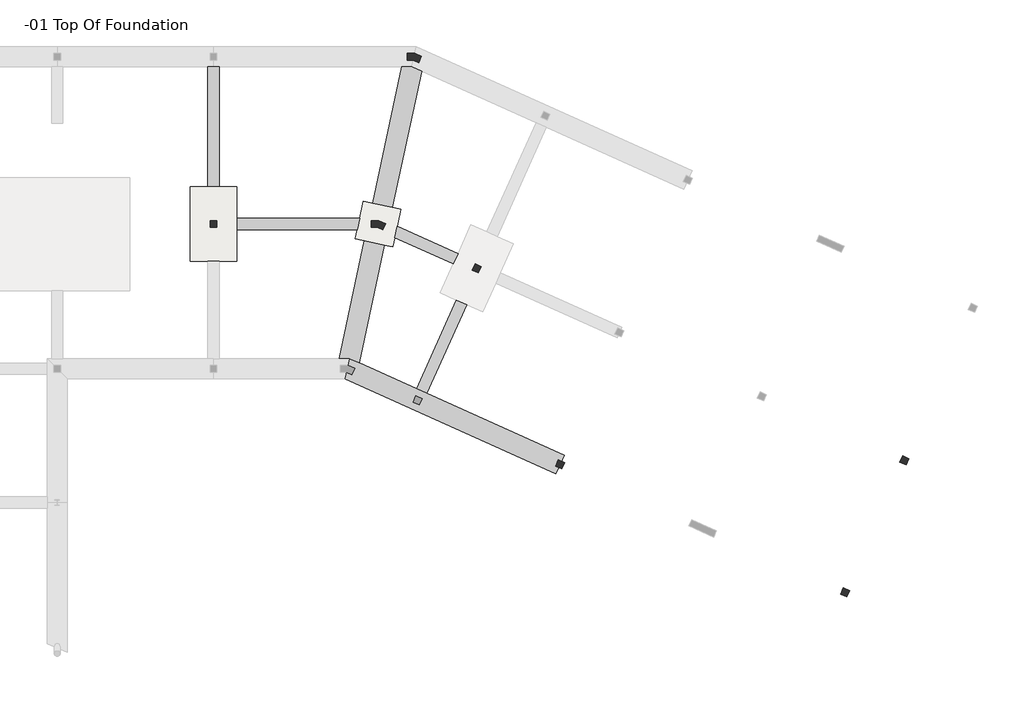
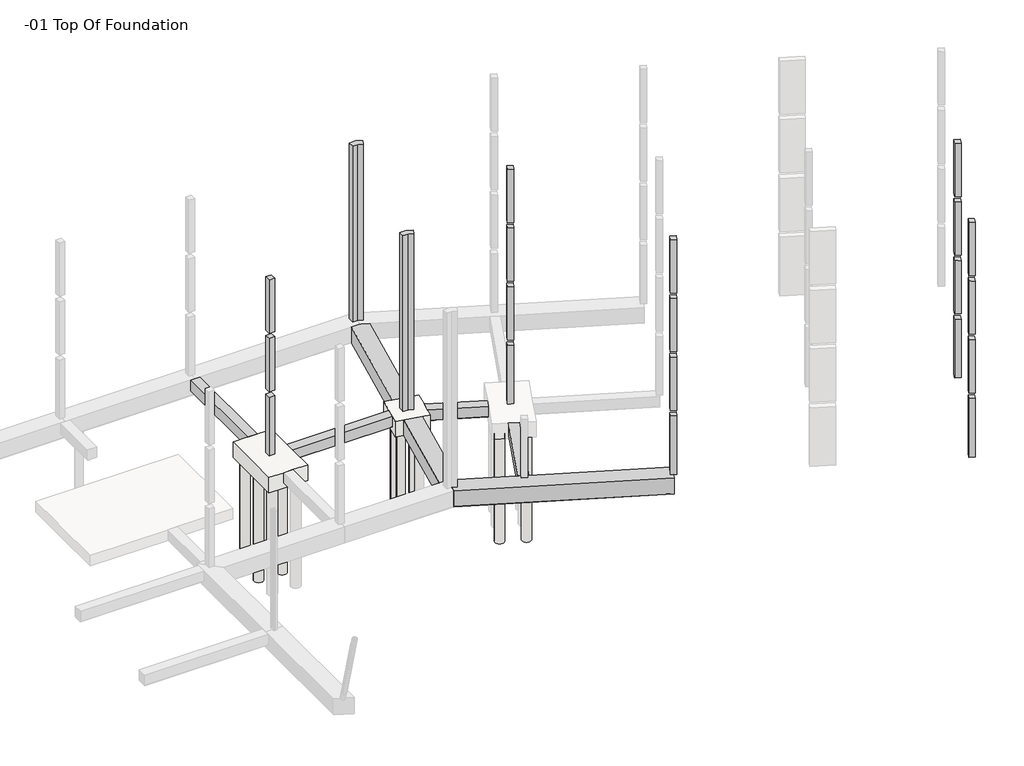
# One storey, part 3 of 4: 11 slabs, 7 columns, 6 beams.
"""IFC4 building model written with IfcOpenShell, lengths in millimetres."""

from ifc_helpers import new_model, si_unit, point, frame, frame_2d, origin, place, context, project, spatial, polyline, circle_curve, ellipse_curve, trimmed, segment, composite_curve, outline, extrude, faceted_brep, element, save
from ifc_brep_helpers import plane_surface, cylinder_surface, revolved_surface, advanced_brep

model = new_model("IFC4")

# Units and contexts
model_context = context("Model", 3, world=origin())
ifc_project = project(units=[si_unit("LENGTHUNIT", "METRE", prefix="MILLI")], contexts=[model_context])

# Site, building, storey
site = spatial("IfcSite", under=ifc_project)
building = spatial("IfcBuilding", under=site)
storey = spatial("IfcBuildingStorey", under=building, Name="-01 Top Of Foundation", Elevation=-304.8)

# Beams
placement = place(None, origin())
element("IfcBeam", 1, ObjectType="Ring Beam : 12 x 24", at=placement, inside=storey, context=model_context, shape_type="SweptSolid", body=[
    extrude(outline(polyline([(6743.7000001, 889.0), (7251.7, 889.0), (7251.7, 304.8), (7226.3, 279.4), (6769.1, 279.4), (6743.7000001, 304.8), (6743.7000001, 889.0)])), frame((37733.3780425, -17865.6165854, -1193.8), z_axis=(0.4097560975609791, 0.9121951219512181, 0.0), x_axis=(-0.9121951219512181, 0.4097560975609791, 0.0)), (0.0, 0.0, 1.0), 4356.1),
])
element("IfcBeam", 2, ObjectType="Ring Beam : 12 x 24", at=placement, inside=storey, context=model_context, shape_type="Brep", body=[
    faceted_brep([(30254.0535171, -7606.2877938, -304.8), (30145.1963742, -8114.2877938, -304.8), (32770.921512, -9293.7579091, -304.8), (32979.0776096, -8830.3627872, -304.8), (30145.1963742, -8114.2877938, -889.0), (32770.921512, -9293.7579091, -889.0), (30150.6392314, -8088.8877938, -914.4), (32781.3293169, -9270.588153, -914.4), (30248.61066, -7631.6877938, -914.4), (32968.6698047, -8853.5325433, -914.4), (30254.0535171, -7606.2877938, -889.0), (32979.0776096, -8830.3627872, -889.0)], [[[0, 1, 2, 3]], [[1, 4, 5, 2]], [[4, 6, 7, 5]], [[6, 8, 9, 7]], [[8, 10, 11, 9]], [[10, 0, 3, 11]], [[1, 0, 10, 8, 6, 4]], [[3, 2, 5, 7, 9, 11]]]),
])
element("IfcBeam", 3, ObjectType="Ring Beam : 12 x 24", at=placement, inside=storey, context=model_context, shape_type="Brep", body=[
    faceted_brep([(23050.5, -7251.7, -304.8), (23050.5, -7759.7, -304.8), (28454.7694343, -7759.7, -304.8), (28563.6265772, -7251.7, -304.8), (23050.5, -7759.7, -889.0), (28454.7694343, -7759.7, -889.0), (23050.5, -7734.3, -914.4), (28460.2122914, -7734.3, -914.4), (23050.5, -7277.1, -914.4), (28558.18372, -7277.1, -914.4), (23050.5, -7251.7, -889.0), (28563.6265772, -7251.7, -889.0)], [[[0, 1, 2, 3]], [[1, 4, 5, 2]], [[4, 6, 7, 5]], [[6, 8, 9, 7]], [[8, 10, 11, 9]], [[10, 0, 3, 11]], [[1, 0, 10, 8, 6, 4]], [[3, 2, 5, 7, 9, 11]]]),
])
element("IfcBeam", 4, ObjectType="Ring Beam : 12 x 24", at=placement, inside=storey, context=model_context, shape_type="Brep", body=[
    faceted_brep([(22263.1, -457.2, -304.8), (22009.1, -457.2, -304.8), (21755.1, -457.2, -304.8), (21755.1, -5829.3, -304.8), (22263.1, -5829.3, -304.8), (22263.1, -457.2, -889.0), (22263.1, -5829.3, -889.0), (22237.7, -457.2, -914.4), (22237.7, -5829.3, -914.4), (21780.5, -457.2, -914.4), (21780.5, -5829.3, -914.4), (21755.1, -457.2, -889.0), (21755.1, -5829.3, -889.0)], [[[0, 1, 2, 3, 4]], [[5, 0, 4, 6]], [[7, 5, 6, 8]], [[9, 7, 8, 10]], [[11, 9, 10, 12]], [[2, 11, 12, 3]], [[0, 5, 7, 9, 11, 2, 1]], [[4, 3, 12, 10, 8, 6]]]),
])
element("IfcBeam", 5, ObjectType="Ring Beam : 16 x 32", at=placement, inside=storey, context=model_context, shape_type="Brep", body=[
    faceted_brep([(28099.7244536, -13538.2, -304.8), (28034.4101679, -13843.0, -304.8), (27969.0988162, -14147.786308, -304.8), (27903.7815965, -14452.6, -304.8), (37370.2819449, -18704.9317073, -304.8), (37474.3599937, -18473.2341463, -304.8), (37744.9629205, -17870.8204878, -304.8), (31581.8077985, -15102.3443902, -304.8), (31118.4126766, -14894.1882927, -304.8), (28542.523194, -13737.104247, -304.8), (27903.7815965, -14452.6, -1193.8), (37370.2819449, -18704.9317073, -1193.8), (27909.2244536, -14427.2, -1219.2), (37380.6897498, -18681.7619512, -1219.2), (28094.2815965, -13563.6, -1219.2), (28513.3845925, -13751.8601693, -1219.2), (37734.5551156, -17893.9902439, -1219.2), (28099.7244536, -13538.2, -1193.8), (28542.523194, -13737.104247, -1193.8), (37744.9629205, -17870.8204878, -1193.8)], [[[0, 1, 2, 3, 4, 5, 6, 7, 8, 9]], [[3, 10, 11, 4]], [[10, 12, 13, 11]], [[12, 14, 15, 16, 13]], [[14, 17, 18, 19, 16, 15]], [[17, 0, 9, 8, 7, 6, 19, 18]], [[0, 17, 14, 12, 10, 3, 2, 1]], [[4, 11, 13, 16, 19, 6, 5]]]),
])
element("IfcBeam", 6, ObjectType="Ring Beam : 16 x 32", at=placement, inside=storey, context=model_context, shape_type="AdvancedBrep", body=[
    advanced_brep(
    [(31345.5946226, -656.104247, -304.8), (30902.7958822, -457.2, -304.8), (30453.0587055, -457.2, -304.8), (29143.3597284, -6569.12856, -304.8), (30037.4622558, -6760.7219587, -304.8), (31345.5946226, -656.104247, -1193.8), (30037.4622558, -6760.7219587, -1193.8), (31327.3417353, -620.0601693, -1219.2), (29994.728735, -6960.1450558, -1193.8), (29970.017132, -6954.2416514, -1219.2), (28513.3845925, -13751.8601693, -1219.2), (28094.2815965, -13563.6, -1219.2), (27670.521038, -13563.6, -1219.2), (28849.8308143, -8060.1543772, -1219.2), (29048.2445125, -7899.5308752, -1219.2), (28933.0689643, -7671.7096775, -1219.2), (29041.4242131, -7166.0518498, -1219.2), (29239.8379112, -7005.4283477, -1219.2), (29124.662363, -6777.60715, -1219.2), (30484.4781809, -431.8, -1219.2), (30908.2387393, -431.8, -1219.2), (29736.5615376, -7111.8691248, -1219.2), (29884.9297736, -7351.3159905, -1219.2), (29778.4237333, -7848.3441788, -1219.2), (29544.9681388, -8005.9716523, -1219.2), (29693.3363749, -8245.418518, -1219.2), (30453.0587055, -457.2, -1193.8), (29100.6262076, -6768.551657, -1193.8), (29143.3597284, -6569.12856, -1193.8), (28542.523194, -13737.104247, -1193.8), (28099.7244536, -13538.2, -1193.8), (28542.523194, -13737.104247, -304.8), (28099.7244536, -13538.2, -304.8), (30902.7958822, -457.2, -1193.8), (27649.987277, -13538.2, -1193.8), (27649.987277, -13538.2, -304.8), (28781.4610863, -8257.9888896, -1193.8), (29675.5636138, -8449.5822883, -1193.8), (29718.2971346, -8250.1591913, -1193.8), (29544.9681388, -8005.9716523, -1193.8), (29803.1353363, -7854.2475832, -1193.8), (29909.8905333, -7356.0566638, -1193.8), (29736.5615376, -7111.8691248, -1193.8), (29239.8379112, -7005.4283477, -1193.8), (29015.7880059, -7164.4632651, -1193.8), (28909.0328089, -7662.6541845, -1193.8), (29048.2445125, -7899.5308752, -1193.8), (28824.1946071, -8058.5657925, -1193.8), (28781.4610863, -8257.9888896, -304.8), (29675.5636138, -8449.5822883, -304.8)],
    [
        (0, 1),
        (1, 2),
        (2, 3),
        (3, 4),
        (4, 0),
        (5, 0),
        (4, 6),
        (6, 5),
        (7, 5),
        (6, 8),
        (8, 9, ellipse_curve(frame((29935.2509881, -7154.4454357, -1211.245903), z_axis=(-0.691410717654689, 0.14815943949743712, 0.7071067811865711), x_axis=(0.691410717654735, -0.14815943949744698, 0.7071067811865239)), 287.3681959, 203.2)),
        (9, 7),
        (10, 11),
        (11, 12),
        (12, 13),
        (13, 14, circle_curve(frame((28849.5550619, -7856.9545643, -1219.2), z_axis=(0.0, 0.0, 1.0), x_axis=(-0.977802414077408, 0.20952908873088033, 0.0)), 203.2)),
        (14, 15, circle_curve(frame((28849.5550619, -7856.9545643, -1219.2), z_axis=(0.0, 0.0, 1.0), x_axis=(-0.977802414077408, 0.20952908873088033, 0.0)), 203.2)),
        (15, 16),
        (16, 17, circle_curve(frame((29041.1484607, -6962.8520369, -1219.2), z_axis=(0.0, 0.0, 1.0), x_axis=(-0.977802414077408, 0.20952908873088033, 0.0)), 203.2)),
        (17, 18, circle_curve(frame((29041.1484607, -6962.8520369, -1219.2), z_axis=(0.0, 0.0, 1.0), x_axis=(-0.977802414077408, 0.20952908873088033, 0.0)), 203.2)),
        (18, 19),
        (19, 20),
        (20, 7),
        (9, 21, circle_curve(frame((29935.2509881, -7154.4454357, -1219.2), z_axis=(0.0, 0.0, 1.0), x_axis=(-0.977802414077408, 0.20952908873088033, 0.0)), 203.2)),
        (21, 22, circle_curve(frame((29935.2509881, -7154.4454357, -1219.2), z_axis=(0.0, 0.0, 1.0), x_axis=(-0.977802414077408, 0.20952908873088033, 0.0)), 203.2)),
        (22, 23),
        (23, 24, circle_curve(frame((29743.6575894, -8048.5479631, -1219.2), z_axis=(0.0, 0.0, 1.0), x_axis=(-0.977802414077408, 0.20952908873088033, 0.0)), 203.2)),
        (24, 25, circle_curve(frame((29743.6575894, -8048.5479631, -1219.2), z_axis=(0.0, 0.0, 1.0), x_axis=(-0.977802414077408, 0.20952908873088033, 0.0)), 203.2)),
        (25, 10),
        (26, 19),
        (18, 27, ellipse_curve(frame((29041.1484607, -6962.8520369, -1176.354097), z_axis=(0.691410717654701, -0.14815943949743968, 0.7071067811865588), x_axis=(-0.691410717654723, 0.1481594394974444, 0.7071067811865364)), 287.3681959, 203.2)),
        (27, 28),
        (28, 26),
        (2, 26),
        (28, 3),
        (29, 30),
        (30, 11),
        (10, 29),
        (29, 31),
        (31, 32),
        (32, 30),
        (5, 33),
        (33, 1),
        (20, 33),
        (33, 26),
        (30, 34),
        (34, 12),
        (32, 35),
        (35, 34),
        (36, 37),
        (37, 38),
        (38, 39, circle_curve(frame((29743.6575894, -8048.5479631, -1193.8), z_axis=(0.0, 0.0, -1.0), x_axis=(-0.977802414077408, 0.20952908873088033, 0.0)), 203.2)),
        (39, 40, circle_curve(frame((29743.6575894, -8048.5479631, -1193.8), z_axis=(0.0, 0.0, -1.0), x_axis=(-0.977802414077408, 0.20952908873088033, 0.0)), 203.2)),
        (40, 41),
        (41, 42, circle_curve(frame((29935.2509881, -7154.4454357, -1193.8), z_axis=(0.0, 0.0, -1.0), x_axis=(-0.977802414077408, 0.20952908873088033, 0.0)), 203.2)),
        (42, 8, circle_curve(frame((29935.2509881, -7154.4454357, -1193.8), z_axis=(0.0, 0.0, -1.0), x_axis=(-0.977802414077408, 0.20952908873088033, 0.0)), 203.2)),
        (6, 28),
        (27, 43, circle_curve(frame((29041.1484607, -6962.8520369, -1193.8), z_axis=(0.0, 0.0, -1.0), x_axis=(-0.977802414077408, 0.20952908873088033, 0.0)), 203.2)),
        (43, 44, circle_curve(frame((29041.1484607, -6962.8520369, -1193.8), z_axis=(0.0, 0.0, -1.0), x_axis=(-0.977802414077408, 0.20952908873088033, 0.0)), 203.2)),
        (44, 45),
        (45, 46, circle_curve(frame((28849.5550619, -7856.9545643, -1193.8), z_axis=(0.0, 0.0, -1.0), x_axis=(-0.977802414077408, 0.20952908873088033, 0.0)), 203.2)),
        (46, 47, circle_curve(frame((28849.5550619, -7856.9545643, -1193.8), z_axis=(0.0, 0.0, -1.0), x_axis=(-0.977802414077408, 0.20952908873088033, 0.0)), 203.2)),
        (47, 36),
        (36, 48),
        (48, 49),
        (49, 37),
        (31, 49),
        (48, 35),
        (29, 37),
        (36, 34),
        (39, 24),
        (23, 40, ellipse_curve(frame((29743.6575894, -8048.5479631, -1211.245903), z_axis=(0.691410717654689, -0.14815943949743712, -0.7071067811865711), x_axis=(0.691410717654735, -0.14815943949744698, 0.7071067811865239)), 287.3681959, 203.2)),
        (38, 25, ellipse_curve(frame((29743.6575894, -8048.5479631, -1211.245903), z_axis=(0.691410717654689, -0.14815943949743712, -0.7071067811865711), x_axis=(0.691410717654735, -0.14815943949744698, 0.7071067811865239)), 287.3681959, 203.2)),
        (42, 21),
        (41, 22, ellipse_curve(frame((29935.2509881, -7154.4454357, -1211.245903), z_axis=(0.691410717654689, -0.14815943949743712, -0.7071067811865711), x_axis=(0.691410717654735, -0.14815943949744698, 0.7071067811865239)), 287.3681959, 203.2)),
        (17, 43),
        (16, 44, ellipse_curve(frame((29041.1484607, -6962.8520369, -1176.354097), z_axis=(-0.691410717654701, 0.14815943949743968, -0.7071067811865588), x_axis=(-0.691410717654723, 0.1481594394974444, 0.7071067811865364)), 287.3681959, 203.2)),
        (15, 45, ellipse_curve(frame((28849.5550619, -7856.9545643, -1176.354097), z_axis=(0.691410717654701, -0.14815943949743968, 0.7071067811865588), x_axis=(-0.691410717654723, 0.1481594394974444, 0.7071067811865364)), 287.3681959, 203.2)),
        (14, 46),
        (13, 47, ellipse_curve(frame((28849.5550619, -7856.9545643, -1176.354097), z_axis=(-0.691410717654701, 0.14815943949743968, -0.7071067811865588), x_axis=(-0.691410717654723, 0.1481594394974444, 0.7071067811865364)), 287.3681959, 203.2)),
    ],
    [
        plane_surface(frame((30448.8310757, -476.928939, -304.8), z_axis=(0.0, 0.0, 1.0), x_axis=(-0.20952908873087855, -0.9778024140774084, 0.0))),
        plane_surface(frame((31342.9336032, -668.5223377, -304.8), z_axis=(0.9778024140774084, -0.20952908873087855, 0.0), x_axis=(-0.20952908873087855, -0.9778024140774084, 0.0))),
        plane_surface(frame((31342.9336032, -668.5223377, -1193.8), z_axis=(0.691410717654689, -0.14815943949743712, -0.7071067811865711), x_axis=(-0.20952908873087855, -0.9778024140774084, 0.0))),
        plane_surface(frame((31318.0974219, -663.2002988, -1219.2), z_axis=(0.0, 0.0, -1.0), x_axis=(-0.20952908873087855, -0.9778024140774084, 0.0))),
        plane_surface(frame((30473.6672571, -482.2509778, -1219.2), z_axis=(-0.691410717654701, 0.14815943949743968, -0.7071067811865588), x_axis=(-0.20952908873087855, -0.9778024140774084, 0.0))),
        plane_surface(frame((30448.8310757, -476.928939, -1193.8), z_axis=(-0.9778024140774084, 0.20952908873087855, 0.0), x_axis=(-0.20952908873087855, -0.9778024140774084, 0.0))),
        plane_surface(frame((37722.9702376, -17888.7863415, -1219.2), z_axis=(-0.28974131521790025, -0.6450193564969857, 0.7071067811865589), x_axis=(-0.9121951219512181, 0.4097560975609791, 0.0))),
        plane_surface(frame((37733.3780425, -17865.6165854, -1193.8), z_axis=(-0.4097560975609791, -0.9121951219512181, 0.0), x_axis=(-0.9121951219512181, 0.4097560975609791, 0.0))),
        plane_surface(frame((43093.3975546, -5933.1921951, -304.8), z_axis=(0.4097560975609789, 0.9121951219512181, 0.0), x_axis=(-0.9121951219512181, 0.4097560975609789, 0.0))),
        plane_surface(frame((43093.3975546, -5933.1921951, -1193.8), z_axis=(0.2897413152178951, 0.6450193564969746, 0.7071067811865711), x_axis=(-0.9121951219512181, 0.4097560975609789, 0.0))),
        plane_surface(frame((30800.7268229, -457.2, -304.8), z_axis=(0.0, 1.0, 0.0), x_axis=(-1.0, 0.0, 0.0))),
        plane_surface(frame((30800.7268229, -457.2, -1193.8), z_axis=(0.0, 0.707106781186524, 0.7071067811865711), x_axis=(-1.0, 0.0, 0.0))),
        plane_surface(frame((27801.7125372, -13563.6, -1219.2), z_axis=(0.0, -0.7071067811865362, 0.7071067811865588), x_axis=(-1.0, 0.0, 0.0))),
        plane_surface(frame((27801.7125372, -13538.2, -1193.8), z_axis=(0.0, -1.0, 0.0), x_axis=(-1.0, 0.0, 0.0))),
        plane_surface(frame((30055.8838688, -8531.0794858, -1193.8), z_axis=(0.0, 0.0, 1.0000000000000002), x_axis=(-0.9778024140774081, 0.20952908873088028, 0.0))),
        plane_surface(frame((28367.0235392, -8169.1808438, -304.8), z_axis=(0.20952908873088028, 0.9778024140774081, 0.0), x_axis=(0.0, 0.0, -1.0))),
        plane_surface(frame((30417.7825109, -6842.2191562, -304.8), z_axis=(-0.20952908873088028, -0.9778024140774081, 0.0), x_axis=(0.0, 0.0, -1.0))),
        revolved_surface(polyline([(29544.968138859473, -8005.9716522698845, -1008.045902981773), (29544.968138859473, -8005.9716522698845, -1414.445903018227)]), (29743.6575894, -8048.5479631, -6070.6), (0.0, 0.0, 1.0)),
        revolved_surface(polyline([(29736.56153755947, -7111.869124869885, -1008.045902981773), (29736.56153755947, -7111.869124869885, -1414.445903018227)]), (29935.2509881, -7154.4454357, -6070.6), (0.0, 0.0, 1.0)),
        revolved_surface(polyline([(28842.45901015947, -6920.2757260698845, -973.1540969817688), (28842.45901015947, -6920.2757260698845, -1379.55409701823)]), (29041.1484607, -6962.8520369, -6070.6), (0.0, 0.0, 1.0)),
        revolved_surface(polyline([(28650.86561135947, -7814.378253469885, -973.1540969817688), (28650.86561135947, -7814.378253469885, -1379.55409701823)]), (28849.5550619, -7856.9545643, -6070.6), (0.0, 0.0, 1.0)),
    ],
    [
        (0, [[1, 2, 3, 4, 5]]),
        (1, [[6, -5, 7, 8]]),
        (2, [[9, -8, 10, 11, 12]]),
        (3, [[13, 14, 15, 16, 17, 18, 19, 20, 21, 22, 23, -12, 24, 25, 26, 27, 28, 29]]),
        (4, [[30, -21, 31, 32, 33]]),
        (5, [[34, -33, 35, -3]]),
        (6, [[36, 37, -13, 38]]),
        (7, [[-36, 39, 40, 41]]),
        (8, [[42, 43, -1, -6]]),
        (9, [[-42, -9, -23, 44]]),
        (10, [[45, -34, -2, -43]]),
        (11, [[-45, -44, -22, -30]]),
        (12, [[46, 47, -14, -37]]),
        (13, [[-46, -41, 48, 49]]),
        (14, [[50, 51, 52, 53, 54, 55, 56, -10, 57, -32, 58, 59, 60, 61, 62, 63]]),
        (15, [[-50, 64, 65, 66]]),
        (16, [[-57, -7, -4, -35]]),
        (0, [[-40, 67, -65, 68, -48]]),
        (1, [[-39, 69, -66, -67]]),
        (5, [[-49, -68, -64, 70]]),
        (17, [[71, -27, 72, -53]]),
        (17, [[-71, -52, 73, -28]]),
        (2, [[-38, -29, -73, -51, -69]]),
        (18, [[74, -24, -11, -56]]),
        (18, [[-74, -55, 75, -25]]),
        (2, [[-72, -26, -75, -54]]),
        (19, [[76, -58, -31, -20]]),
        (19, [[-76, -19, 77, -59]]),
        (4, [[-77, -18, 78, -60]]),
        (20, [[79, -61, -78, -17]]),
        (20, [[-79, -16, 80, -62]]),
        (4, [[-47, -70, -63, -80, -15]]),
    ],
),
])

# Columns
element("IfcColumn", 7, ObjectType="Cranked Corner Column : CC1", at=placement, inside=storey, context=model_context, shape_type="SweptSolid", body=[
    extrude(outline(polyline([(30695.9673107, 152.4), (31033.3910427, 152.4), (31341.2512132, 14.124878), (31216.3575546, -263.9121951), (30968.1435788, -152.4), (30695.9673107, -152.4), (30695.9673107, 152.4)])), frame((0.0, 0.0, -304.8), z_axis=(0.0, 0.0, 1.0), x_axis=(1.0, 0.0, 0.0)), (0.0, 0.0, 1.0), 10058.4),
])
element("IfcColumn", 8, ObjectType="Cranked Corner Column : CC1", at=placement, inside=storey, context=model_context, shape_type="SweptSolid", body=[
    extrude(outline(polyline([(29087.603025, -7353.3), (29425.026757, -7353.3), (29732.8869275, -7491.575122), (29607.9932689, -7769.6121951), (29359.7792931, -7658.1), (29087.603025, -7658.1), (29087.603025, -7353.3)])), frame((0.0, 0.0, -304.8), z_axis=(0.0, 0.0, 1.0), x_axis=(1.0, 0.0, 0.0)), (0.0, 0.0, 1.0), 10058.4),
])
element("IfcColumn", 9, ObjectType="Concrete-Rectangular-Column : 12 x 12", at=placement, inside=storey, context=model_context, shape_type="SweptSolid", body=[
    extrude(outline(polyline([(22161.5, -7353.3), (22161.5, -7658.1), (21856.7, -7658.1), (21856.7, -7353.3), (22161.5, -7353.3)])), frame((0.0, 0.0, -304.8), z_axis=(0.0, 0.0, 1.0), x_axis=(1.0, 0.0, 0.0)), (0.0, 0.0, 1.0), 3352.8),
    extrude(outline(polyline([(22161.5, -7353.3), (22161.5, -7658.1), (21856.7, -7658.1), (21856.7, -7353.3), (22161.5, -7353.3)])), frame((0.0, 0.0, 6705.6), z_axis=(0.0, 0.0, 1.0), x_axis=(1.0, 0.0, 0.0)), (0.0, 0.0, 1.0), 3048.0),
    extrude(outline(polyline([(22161.5, -7353.3), (22161.5, -7658.1), (21856.7, -7658.1), (21856.7, -7353.3), (22161.5, -7353.3)])), frame((0.0, 0.0, 3352.8), z_axis=(0.0, 0.0, 1.0), x_axis=(1.0, 0.0, 0.0)), (0.0, 0.0, 1.0), 3048.0),
])
element("IfcColumn", 10, ObjectType="Concrete-Rectangular-Column : 12 x 12", at=placement, inside=storey, context=model_context, shape_type="Brep", body=[
    faceted_brep([(52929.9502376, -17911.6463415, -304.8), (53207.9873107, -18036.54, -304.8), (53083.0936522, -18314.5770732, -304.8), (52805.056579, -18189.6834146, -304.8), (53207.9873107, -18036.54, 3048.0), (52929.9502376, -17911.6463415, 3048.0), (52805.056579, -18189.6834146, 3048.0), (53083.0936522, -18314.5770732, 3048.0), (52929.9502376, -17911.6463415, 0.0), (53207.9873107, -18036.54, 0.0), (53083.0936522, -18314.5770732, 0.0), (52805.056579, -18189.6834146, 0.0)], [[[0, 1, 2, 3]], [[4, 5, 6, 7]], [[1, 0, 8, 5, 4, 9]], [[2, 1, 9, 4, 7, 10]], [[3, 2, 10, 7, 6, 11]], [[0, 3, 11, 6, 5, 8]]]),
    faceted_brep([(53207.9873107, -18036.54, 10058.4), (52929.9502376, -17911.6463415, 10058.4), (52929.9502376, -17911.6463415, 13106.4), (53207.9873107, -18036.54, 13106.4), (53083.0936522, -18314.5770732, 10058.4), (53083.0936522, -18314.5770732, 13106.4), (52805.056579, -18189.6834146, 10058.4), (52805.056579, -18189.6834146, 13106.4)], [[[0, 1, 2, 3]], [[4, 0, 3, 5]], [[6, 4, 5, 7]], [[1, 6, 7, 2]], [[1, 0, 4, 6]], [[3, 2, 7, 5]]]),
    faceted_brep([(52929.9502376, -17911.6463415, 3352.8), (53207.9873107, -18036.54, 3352.8), (53083.0936522, -18314.5770732, 3352.8), (52805.056579, -18189.6834146, 3352.8), (53207.9873107, -18036.54, 6400.8), (52929.9502376, -17911.6463415, 6400.8), (52805.056579, -18189.6834146, 6400.8), (53083.0936522, -18314.5770732, 6400.8)], [[[0, 1, 2, 3]], [[4, 5, 6, 7]], [[1, 0, 5, 4]], [[2, 1, 4, 7]], [[3, 2, 7, 6]], [[0, 3, 6, 5]]]),
    faceted_brep([(52929.9502376, -17911.6463415, 6705.6), (53207.9873107, -18036.54, 6705.6), (53083.0936522, -18314.5770732, 6705.6), (52805.056579, -18189.6834146, 6705.6), (53207.9873107, -18036.54, 9753.6), (52929.9502376, -17911.6463415, 9753.6), (52805.056579, -18189.6834146, 9753.6), (53083.0936522, -18314.5770732, 9753.6)], [[[0, 1, 2, 3]], [[4, 5, 6, 7]], [[1, 0, 5, 4]], [[2, 1, 4, 7]], [[3, 2, 7, 6]], [[0, 3, 6, 5]]]),
])
element("IfcColumn", 11, ObjectType="Concrete-Rectangular-Column : 12 x 12", at=placement, inside=storey, context=model_context, shape_type="Brep", body=[
    faceted_brep([(50270.7560912, -23831.5190244, -304.8), (50548.7931644, -23956.4126829, -304.8), (50423.8995059, -24234.4497561, -304.8), (50145.8624327, -24109.5560976, -304.8), (50548.7931644, -23956.4126829, 3048.0), (50270.7560912, -23831.5190244, 3048.0), (50145.8624327, -24109.5560976, 3048.0), (50423.8995059, -24234.4497561, 3048.0), (50270.7560912, -23831.5190244, 0.0), (50548.7931644, -23956.4126829, 0.0), (50423.8995059, -24234.4497561, 0.0), (50145.8624327, -24109.5560976, 0.0)], [[[0, 1, 2, 3]], [[4, 5, 6, 7]], [[1, 0, 8, 5, 4, 9]], [[2, 1, 9, 4, 7, 10]], [[3, 2, 10, 7, 6, 11]], [[0, 3, 11, 6, 5, 8]]]),
    faceted_brep([(50548.7931644, -23956.4126829, 10058.4), (50270.7560912, -23831.5190244, 10058.4), (50270.7560912, -23831.5190244, 13106.4), (50548.7931644, -23956.4126829, 13106.4), (50423.8995059, -24234.4497561, 10058.4), (50423.8995059, -24234.4497561, 13106.4), (50145.8624327, -24109.5560976, 10058.4), (50145.8624327, -24109.5560976, 13106.4)], [[[0, 1, 2, 3]], [[4, 0, 3, 5]], [[6, 4, 5, 7]], [[1, 6, 7, 2]], [[1, 0, 4, 6]], [[3, 2, 7, 5]]]),
    faceted_brep([(50270.7560912, -23831.5190244, 3352.8), (50548.7931644, -23956.4126829, 3352.8), (50423.8995059, -24234.4497561, 3352.8), (50145.8624327, -24109.5560976, 3352.8), (50548.7931644, -23956.4126829, 6400.8), (50270.7560912, -23831.5190244, 6400.8), (50145.8624327, -24109.5560976, 6400.8), (50423.8995059, -24234.4497561, 6400.8)], [[[0, 1, 2, 3]], [[4, 5, 6, 7]], [[1, 0, 5, 4]], [[2, 1, 4, 7]], [[3, 2, 7, 6]], [[0, 3, 6, 5]]]),
    faceted_brep([(50270.7560912, -23831.5190244, 6705.6), (50548.7931644, -23956.4126829, 6705.6), (50423.8995059, -24234.4497561, 6705.6), (50145.8624327, -24109.5560976, 6705.6), (50548.7931644, -23956.4126829, 9753.6), (50270.7560912, -23831.5190244, 9753.6), (50145.8624327, -24109.5560976, 9753.6), (50423.8995059, -24234.4497561, 9753.6)], [[[0, 1, 2, 3]], [[4, 5, 6, 7]], [[1, 0, 5, 4]], [[2, 1, 4, 7]], [[3, 2, 7, 6]], [[0, 3, 6, 5]]]),
])
element("IfcColumn", 12, ObjectType="Concrete-Rectangular-Column : 12 x 12", at=placement, inside=storey, context=model_context, shape_type="SweptSolid", body=[
    extrude(outline(polyline([(37481.0507254, -18086.4107317), (37759.0877985, -18211.3043902), (37634.19414, -18489.3414634), (37356.1570668, -18364.4478049), (37481.0507254, -18086.4107317)])), frame((0.0, 0.0, -304.8), z_axis=(0.0, 0.0, 1.0), x_axis=(1.0, 0.0, 0.0)), (0.0, 0.0, 1.0), 3352.8),
    extrude(outline(polyline([(37481.0507254, -18086.4107317), (37759.0877985, -18211.3043902), (37634.19414, -18489.3414634), (37356.1570668, -18364.4478049), (37481.0507254, -18086.4107317)])), frame((0.0, 0.0, 10058.4), z_axis=(0.0, 0.0, 1.0), x_axis=(1.0, 0.0, 0.0)), (0.0, 0.0, 1.0), 3048.0),
    extrude(outline(polyline([(37481.0507254, -18086.4107317), (37759.0877985, -18211.3043902), (37634.19414, -18489.3414634), (37356.1570668, -18364.4478049), (37481.0507254, -18086.4107317)])), frame((0.0, 0.0, 3352.8), z_axis=(0.0, 0.0, 1.0), x_axis=(1.0, 0.0, 0.0)), (0.0, 0.0, 1.0), 3048.0),
    extrude(outline(polyline([(37481.0507254, -18086.4107317), (37759.0877985, -18211.3043902), (37634.19414, -18489.3414634), (37356.1570668, -18364.4478049), (37481.0507254, -18086.4107317)])), frame((0.0, 0.0, 6705.6), z_axis=(0.0, 0.0, 1.0), x_axis=(1.0, 0.0, 0.0)), (0.0, 0.0, 1.0), 3048.0),
])
element("IfcColumn", 13, ObjectType="Concrete-Rectangular-Column : 12 x 12", at=placement, inside=storey, context=model_context, shape_type="SweptSolid", body=[
    extrude(outline(polyline([(33745.3921888, -9293.9839024), (34023.429262, -9418.877561), (33898.5356034, -9696.9146341), (33620.4985303, -9572.0209756), (33745.3921888, -9293.9839024)])), frame((0.0, 0.0, -304.8), z_axis=(0.0, 0.0, 1.0), x_axis=(1.0, 0.0, 0.0)), (0.0, 0.0, 1.0), 3352.8),
    extrude(outline(polyline([(33745.3921888, -9293.9839024), (34023.429262, -9418.877561), (33898.5356034, -9696.9146341), (33620.4985303, -9572.0209756), (33745.3921888, -9293.9839024)])), frame((0.0, 0.0, 10058.4), z_axis=(0.0, 0.0, 1.0), x_axis=(1.0, 0.0, 0.0)), (0.0, 0.0, 1.0), 3048.0),
    extrude(outline(polyline([(33745.3921888, -9293.9839024), (34023.429262, -9418.877561), (33898.5356034, -9696.9146341), (33620.4985303, -9572.0209756), (33745.3921888, -9293.9839024)])), frame((0.0, 0.0, 3352.8), z_axis=(0.0, 0.0, 1.0), x_axis=(1.0, 0.0, 0.0)), (0.0, 0.0, 1.0), 3048.0),
    extrude(outline(polyline([(33745.3921888, -9293.9839024), (34023.429262, -9418.877561), (33898.5356034, -9696.9146341), (33620.4985303, -9572.0209756), (33745.3921888, -9293.9839024)])), frame((0.0, 0.0, 6705.6), z_axis=(0.0, 0.0, 1.0), x_axis=(1.0, 0.0, 0.0)), (0.0, 0.0, 1.0), 3048.0),
])

# Slabs
element("IfcSlab", 14, ObjectType="Pile Cap-4 Pile : 68\"x68\"x35\"", at=placement, inside=storey, context=model_context, shape_type="Brep", body=[
    faceted_brep([(28367.0235392, -8169.1808438, -304.8), (28781.4610863, -8257.9888896, -304.8), (29675.5636138, -8449.5822883, -304.8), (30055.8838688, -8531.0794858, -304.8), (30145.1963742, -8114.2877938, -304.8), (30254.0535171, -7606.2877938, -304.8), (30417.7825109, -6842.2191562, -304.8), (30037.4622558, -6760.7219587, -304.8), (29143.3597284, -6569.12856, -304.8), (28728.9221813, -6480.3205142, -304.8), (28563.6265772, -7251.7, -304.8), (28454.7694343, -7759.7, -304.8), (28367.0235392, -8169.1808438, -1193.8), (28728.9221813, -6480.3205142, -1193.8), (29143.3597284, -6569.12856, -1193.8), (30037.4622558, -6760.7219587, -1193.8), (30417.7825109, -6842.2191562, -1193.8), (30055.8838688, -8531.0794858, -1193.8), (29675.5636138, -8449.5822883, -1193.8), (28781.4610863, -8257.9888896, -1193.8)], [[[0, 1, 2, 3, 4, 5, 6, 7, 8, 9, 10, 11]], [[12, 13, 14, 15, 16, 17, 18, 19]], [[3, 2, 1, 0, 12, 19, 18, 17]], [[6, 5, 4, 3, 17, 16]], [[9, 8, 7, 6, 16, 15, 14, 13]], [[0, 11, 10, 9, 13, 12]]]),
])
element("IfcSlab", 15, ObjectType="Pile Cap-6 Pile : 132\"x82\"x35\"", at=placement, inside=storey, context=model_context, shape_type="Brep", body=[
    faceted_brep([(20967.7, -9182.1, -304.8), (21755.1, -9182.1, -304.8), (22263.1, -9182.1, -304.8), (23050.5, -9182.1, -304.8), (23050.5, -7759.7, -304.8), (23050.5, -7251.7, -304.8), (23050.5, -5829.3, -304.8), (22263.1, -5829.3, -304.8), (21755.1, -5829.3, -304.8), (20967.7, -5829.3, -304.8), (20967.7, -7251.7, -304.8), (20967.7, -7759.7, -304.8), (20967.7, -9182.1, -1193.8), (20967.7, -5829.3, -1193.8), (23050.5, -5829.3, -1193.8), (23050.5, -9182.1, -1193.8)], [[[0, 1, 2, 3, 4, 5, 6, 7, 8, 9, 10, 11]], [[12, 13, 14, 15]], [[3, 2, 1, 0, 12, 15]], [[6, 5, 4, 3, 15, 14]], [[9, 8, 7, 6, 14, 13]], [[0, 11, 10, 9, 13, 12]]]),
])
element("IfcSlab", 16, ObjectType="Round In Situ Concrete Pile : 16\" Diameter 16'", at=placement, inside=storey, context=model_context, shape_type="AdvancedBrep", body=[
    advanced_brep(
    [(30133.9404387, -7197.0217465, -6070.6), (29736.5615376, -7111.8691248, -6070.6), (29736.5615376, -7111.8691248, -1193.8), (29994.728735, -6960.1450558, -1193.8), (30133.9404387, -7197.0217465, -1193.8), (29909.8905333, -7356.0566638, -1193.8)],
    [
        (0, 1, circle_curve(frame((29935.2509881, -7154.4454357, -6070.6), z_axis=(0.0, 0.0, -1.0), x_axis=(-0.977802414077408, 0.20952908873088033, 0.0)), 203.2)),
        (1, 0, circle_curve(frame((29935.2509881, -7154.4454357, -6070.6), z_axis=(0.0, 0.0, -1.0), x_axis=(-0.977802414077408, 0.20952908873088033, 0.0)), 203.2)),
        (1, 2),
        (2, 3, circle_curve(frame((29935.2509881, -7154.4454357, -1193.8), z_axis=(0.0, 0.0, -1.0), x_axis=(-0.977802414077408, 0.20952908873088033, 0.0)), 203.2)),
        (3, 4, circle_curve(frame((29935.2509881, -7154.4454357, -1193.8), z_axis=(0.0, 0.0, -1.0), x_axis=(-0.977802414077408, 0.20952908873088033, 0.0)), 203.2)),
        (4, 0),
        (4, 5, circle_curve(frame((29935.2509881, -7154.4454357, -1193.8), z_axis=(0.0, 0.0, -1.0), x_axis=(-0.977802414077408, 0.20952908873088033, 0.0)), 203.2)),
        (5, 2, circle_curve(frame((29935.2509881, -7154.4454357, -1193.8), z_axis=(0.0, 0.0, -1.0), x_axis=(-0.977802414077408, 0.20952908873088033, 0.0)), 203.2)),
    ],
    [
        plane_surface(frame((29736.5615376, -7111.8691248, -6070.6), z_axis=(0.0, 0.0, -1.0), x_axis=(0.20952908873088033, 0.977802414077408, 0.0))),
        cylinder_surface(frame((29935.2509881, -7154.4454357, -6070.6), z_axis=(0.0, 0.0, 1.0), x_axis=(-0.977802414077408, 0.20952908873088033, 0.0)), 203.2),
        plane_surface(frame((30055.8838688, -8531.0794858, -1193.8), z_axis=(0.0, 0.0, 1.0000000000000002), x_axis=(-0.9778024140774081, 0.20952908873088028, 0.0))),
    ],
    [
        (0, [[1, 2]]),
        (1, [[-2, 3, 4, 5, 6]]),
        (1, [[-1, -6, 7, 8, -3]]),
        (2, [[-5, -4, -8, -7]]),
    ],
),
])
element("IfcSlab", 17, ObjectType="Round In Situ Concrete Pile : 16\" Diameter 16'", at=placement, inside=storey, context=model_context, shape_type="AdvancedBrep", body=[
    advanced_brep(
    [(29239.8379112, -7005.4283477, -6070.6), (28842.4590101, -6920.2757261, -6070.6), (28842.4590101, -6920.2757261, -1193.8), (29100.6262076, -6768.551657, -1193.8), (29239.8379112, -7005.4283477, -1193.8), (29015.7880059, -7164.4632651, -1193.8)],
    [
        (0, 1, circle_curve(frame((29041.1484607, -6962.8520369, -6070.6), z_axis=(0.0, 0.0, -1.0), x_axis=(-0.977802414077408, 0.20952908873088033, 0.0)), 203.2)),
        (1, 0, circle_curve(frame((29041.1484607, -6962.8520369, -6070.6), z_axis=(0.0, 0.0, -1.0), x_axis=(-0.977802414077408, 0.20952908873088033, 0.0)), 203.2)),
        (1, 2),
        (2, 3, circle_curve(frame((29041.1484607, -6962.8520369, -1193.8), z_axis=(0.0, 0.0, -1.0), x_axis=(-0.977802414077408, 0.20952908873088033, 0.0)), 203.2)),
        (3, 4, circle_curve(frame((29041.1484607, -6962.8520369, -1193.8), z_axis=(0.0, 0.0, -1.0), x_axis=(-0.977802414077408, 0.20952908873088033, 0.0)), 203.2)),
        (4, 0),
        (4, 5, circle_curve(frame((29041.1484607, -6962.8520369, -1193.8), z_axis=(0.0, 0.0, -1.0), x_axis=(-0.977802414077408, 0.20952908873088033, 0.0)), 203.2)),
        (5, 2, circle_curve(frame((29041.1484607, -6962.8520369, -1193.8), z_axis=(0.0, 0.0, -1.0), x_axis=(-0.977802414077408, 0.20952908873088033, 0.0)), 203.2)),
    ],
    [
        plane_surface(frame((28842.4590101, -6920.2757261, -6070.6), z_axis=(0.0, 0.0, -1.0), x_axis=(0.20952908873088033, 0.977802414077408, 0.0))),
        cylinder_surface(frame((29041.1484607, -6962.8520369, -6070.6), z_axis=(0.0, 0.0, 1.0), x_axis=(-0.977802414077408, 0.20952908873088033, 0.0)), 203.2),
        plane_surface(frame((30055.8838688, -8531.0794858, -1193.8), z_axis=(0.0, 0.0, 1.0000000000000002), x_axis=(-0.9778024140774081, 0.20952908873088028, 0.0))),
    ],
    [
        (0, [[1, 2]]),
        (1, [[-2, 3, 4, 5, 6]]),
        (1, [[-1, -6, 7, 8, -3]]),
        (2, [[-5, -4, -8, -7]]),
    ],
),
])
element("IfcSlab", 18, ObjectType="Round In Situ Concrete Pile : 16\" Diameter 16'", at=placement, inside=storey, context=model_context, shape_type="AdvancedBrep", body=[
    advanced_brep(
    [(29048.2445125, -7899.5308752, -6070.6), (28650.8656114, -7814.3782535, -6070.6), (28650.8656114, -7814.3782535, -1193.8), (28909.0328089, -7662.6541845, -1193.8), (29048.2445125, -7899.5308752, -1193.8), (28824.1946071, -8058.5657925, -1193.8)],
    [
        (0, 1, circle_curve(frame((28849.5550619, -7856.9545643, -6070.6), z_axis=(0.0, 0.0, -1.0), x_axis=(-0.977802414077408, 0.20952908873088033, 0.0)), 203.2)),
        (1, 0, circle_curve(frame((28849.5550619, -7856.9545643, -6070.6), z_axis=(0.0, 0.0, -1.0), x_axis=(-0.977802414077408, 0.20952908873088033, 0.0)), 203.2)),
        (1, 2),
        (2, 3, circle_curve(frame((28849.5550619, -7856.9545643, -1193.8), z_axis=(0.0, 0.0, -1.0), x_axis=(-0.977802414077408, 0.20952908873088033, 0.0)), 203.2)),
        (3, 4, circle_curve(frame((28849.5550619, -7856.9545643, -1193.8), z_axis=(0.0, 0.0, -1.0), x_axis=(-0.977802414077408, 0.20952908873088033, 0.0)), 203.2)),
        (4, 0),
        (4, 5, circle_curve(frame((28849.5550619, -7856.9545643, -1193.8), z_axis=(0.0, 0.0, -1.0), x_axis=(-0.977802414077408, 0.20952908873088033, 0.0)), 203.2)),
        (5, 2, circle_curve(frame((28849.5550619, -7856.9545643, -1193.8), z_axis=(0.0, 0.0, -1.0), x_axis=(-0.977802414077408, 0.20952908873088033, 0.0)), 203.2)),
    ],
    [
        plane_surface(frame((28650.8656114, -7814.3782535, -6070.6), z_axis=(0.0, 0.0, -1.0), x_axis=(0.20952908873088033, 0.977802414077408, 0.0))),
        cylinder_surface(frame((28849.5550619, -7856.9545643, -6070.6), z_axis=(0.0, 0.0, 1.0), x_axis=(-0.977802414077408, 0.20952908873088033, 0.0)), 203.2),
        plane_surface(frame((30055.8838688, -8531.0794858, -1193.8), z_axis=(0.0, 0.0, 1.0000000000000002), x_axis=(-0.9778024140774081, 0.20952908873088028, 0.0))),
    ],
    [
        (0, [[1, 2]]),
        (1, [[-2, 3, 4, 5, 6]]),
        (1, [[-1, -6, 7, 8, -3]]),
        (2, [[-5, -4, -8, -7]]),
    ],
),
])
element("IfcSlab", 19, ObjectType="Round In Situ Concrete Pile : 20\" Diameter", at=placement, inside=storey, context=model_context, shape_type="SweptSolid", body=[
    extrude(outline(composite_curve([segment(trimmed(circle_curve(frame_2d((22644.1, -6235.7)), 254.0), [point((22898.1, -6235.7))], [point((22390.1, -6235.7))], False, "CARTESIAN"), True, "CONTINUOUS"), segment(trimmed(circle_curve(frame_2d((22644.1, -6235.7)), 254.0), [point((22390.1, -6235.7))], [point((22898.1, -6235.7))], False, "CARTESIAN"), True, "CONTINUOUS")], self_intersect=False)), frame((0.0, 0.0, -7289.8), z_axis=(0.0, 0.0, 1.0), x_axis=(1.0, 0.0, 0.0)), (0.0, 0.0, 1.0), 6096.0),
])
element("IfcSlab", 20, ObjectType="Round In Situ Concrete Pile : 20\" Diameter", at=placement, inside=storey, context=model_context, shape_type="SweptSolid", body=[
    extrude(outline(composite_curve([segment(trimmed(circle_curve(frame_2d((21374.1, -6235.7)), 254.0), [point((21628.1, -6235.7))], [point((21120.1, -6235.7))], False, "CARTESIAN"), True, "CONTINUOUS"), segment(trimmed(circle_curve(frame_2d((21374.1, -6235.7)), 254.0), [point((21120.1, -6235.7))], [point((21628.1, -6235.7))], False, "CARTESIAN"), True, "CONTINUOUS")], self_intersect=False)), frame((0.0, 0.0, -7289.8), z_axis=(0.0, 0.0, 1.0), x_axis=(1.0, 0.0, 0.0)), (0.0, 0.0, 1.0), 6096.0),
])
element("IfcSlab", 21, ObjectType="Round In Situ Concrete Pile : 20\" Diameter", at=placement, inside=storey, context=model_context, shape_type="SweptSolid", body=[
    extrude(outline(composite_curve([segment(trimmed(circle_curve(frame_2d((22644.1, -7505.7)), 254.0), [point((22898.1, -7505.7))], [point((22390.1, -7505.7))], False, "CARTESIAN"), True, "CONTINUOUS"), segment(trimmed(circle_curve(frame_2d((22644.1, -7505.7)), 254.0), [point((22390.1, -7505.7))], [point((22898.1, -7505.7))], False, "CARTESIAN"), True, "CONTINUOUS")], self_intersect=False)), frame((0.0, 0.0, -7289.8), z_axis=(0.0, 0.0, 1.0), x_axis=(1.0, 0.0, 0.0)), (0.0, 0.0, 1.0), 6096.0),
])
element("IfcSlab", 22, ObjectType="Round In Situ Concrete Pile : 20\" Diameter", at=placement, inside=storey, context=model_context, shape_type="SweptSolid", body=[
    extrude(outline(composite_curve([segment(trimmed(circle_curve(frame_2d((21374.1, -7505.7)), 254.0), [point((21628.1, -7505.7))], [point((21120.1, -7505.7))], False, "CARTESIAN"), True, "CONTINUOUS"), segment(trimmed(circle_curve(frame_2d((21374.1, -7505.7)), 254.0), [point((21120.1, -7505.7))], [point((21628.1, -7505.7))], False, "CARTESIAN"), True, "CONTINUOUS")], self_intersect=False)), frame((0.0, 0.0, -7289.8), z_axis=(0.0, 0.0, 1.0), x_axis=(1.0, 0.0, 0.0)), (0.0, 0.0, 1.0), 6096.0),
])
element("IfcSlab", 23, ObjectType="Round In Situ Concrete Pile : 20\" Diameter", at=placement, inside=storey, context=model_context, shape_type="SweptSolid", body=[
    extrude(outline(composite_curve([segment(trimmed(circle_curve(frame_2d((32722.3297498, -10393.7419512)), 254.0), [point((32490.6321888, -10289.6639024))], [point((32954.0273107, -10497.82))], False, "CARTESIAN"), True, "CONTINUOUS"), segment(trimmed(circle_curve(frame_2d((32722.3297498, -10393.7419512)), 254.0), [point((32954.0273107, -10497.82))], [point((32490.6321888, -10289.6639024))], False, "CARTESIAN"), True, "CONTINUOUS")], self_intersect=False)), frame((0.0, 0.0, -7289.8), z_axis=(0.0, 0.0, 1.0), x_axis=(1.0, 0.0, 0.0)), (0.0, 0.0, 1.0), 6096.0),
])
element("IfcSlab", 24, ObjectType="Round In Situ Concrete Pile : 20\" Diameter", at=placement, inside=storey, context=model_context, shape_type="SweptSolid", body=[
    extrude(outline(composite_curve([segment(trimmed(circle_curve(frame_2d((33880.8175546, -10914.1321951)), 254.0), [point((33649.1199937, -10810.0541463))], [point((34112.5151156, -11018.2102439))], False, "CARTESIAN"), True, "CONTINUOUS"), segment(trimmed(circle_curve(frame_2d((33880.8175546, -10914.1321951)), 254.0), [point((34112.5151156, -11018.2102439))], [point((33649.1199937, -10810.0541463))], False, "CARTESIAN"), True, "CONTINUOUS")], self_intersect=False)), frame((0.0, 0.0, -7289.8), z_axis=(0.0, 0.0, 1.0), x_axis=(1.0, 0.0, 0.0)), (0.0, 0.0, 1.0), 6096.0),
])

save(model, "model.ifc")
